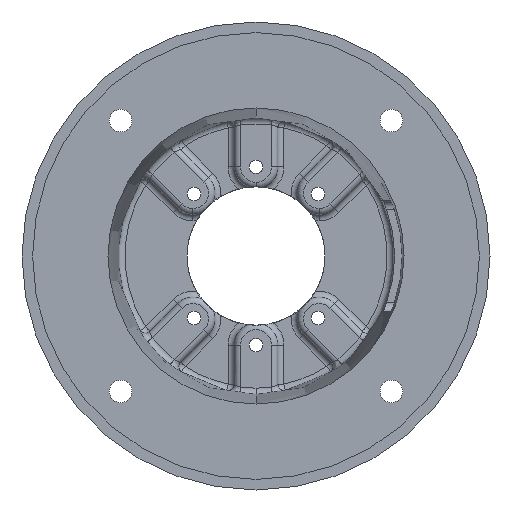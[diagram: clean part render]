
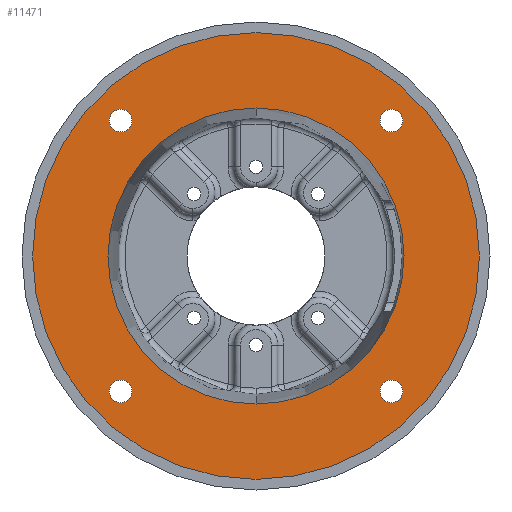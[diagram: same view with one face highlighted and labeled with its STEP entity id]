
A CAD part, front view. The second image highlights one B-rep face of the part: STEP entity #11471.
In plain terms, the highlighted planar face has unit normal (0, -1, 0).
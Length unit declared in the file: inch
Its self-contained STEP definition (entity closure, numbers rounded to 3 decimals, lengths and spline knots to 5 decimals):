
#420 = PLANE ( 'NONE',  #478 ) ;
#423 = DIRECTION ( 'NONE',  ( 0., 0., -1. ) ) ;
#424 = DIRECTION ( 'NONE',  ( 0., -1., 0. ) ) ;
#425 = CARTESIAN_POINT ( 'NONE',  ( -3.18198, 0.18, -3.18198 ) ) ;
#426 = AXIS2_PLACEMENT_3D ( 'NONE', #425, #424, #423 ) ;
#427 = CIRCLE ( 'NONE', #426, 0.26562 ) ;
#475 = DIRECTION ( 'NONE',  ( 0., 0., -1. ) ) ;
#476 = DIRECTION ( 'NONE',  ( 0., -1., 0. ) ) ;
#477 = CARTESIAN_POINT ( 'NONE',  ( 0., 0.18, 0. ) ) ;
#478 = AXIS2_PLACEMENT_3D ( 'NONE', #477, #476, #475 ) ;
#479 = FACE_BOUND ( 'NONE', #11516, .T. ) ;
#480 = FACE_OUTER_BOUND ( 'NONE', #11512, .T. ) ;
#481 = FACE_BOUND ( 'NONE', #11534, .T. ) ;
#482 = FACE_BOUND ( 'NONE', #11530, .T. ) ;
#483 = FACE_BOUND ( 'NONE', #11526, .T. ) ;
#484 = FACE_BOUND ( 'NONE', #11472, .T. ) ;
#489 = DIRECTION ( 'NONE',  ( 0., 0., -1. ) ) ;
#490 = DIRECTION ( 'NONE',  ( 0., -1., 0. ) ) ;
#491 = CARTESIAN_POINT ( 'NONE',  ( -3.18198, 0.18, 3.18198 ) ) ;
#492 = AXIS2_PLACEMENT_3D ( 'NONE', #491, #490, #489 ) ;
#497 = CIRCLE ( 'NONE', #492, 0.26562 ) ;
#500 = DIRECTION ( 'NONE',  ( 0., 0., -1. ) ) ;
#501 = DIRECTION ( 'NONE',  ( 0., -1., 0. ) ) ;
#502 = AXIS2_PLACEMENT_3D ( 'NONE', #507, #501, #500 ) ;
#503 = CIRCLE ( 'NONE', #502, 5.2505 ) ;
#507 = CARTESIAN_POINT ( 'NONE',  ( 0., 0.18, 0. ) ) ;
#541 = DIRECTION ( 'NONE',  ( 0., 0., -1. ) ) ;
#542 = DIRECTION ( 'NONE',  ( 0., -1., 0. ) ) ;
#543 = CARTESIAN_POINT ( 'NONE',  ( 3.18198, 0.18, -3.18198 ) ) ;
#544 = AXIS2_PLACEMENT_3D ( 'NONE', #543, #542, #541 ) ;
#545 = CIRCLE ( 'NONE', #544, 0.26562 ) ;
#546 = DIRECTION ( 'NONE',  ( 0., 0., -1. ) ) ;
#547 = DIRECTION ( 'NONE',  ( 0., -1., 0. ) ) ;
#548 = CARTESIAN_POINT ( 'NONE',  ( 3.18198, 0.18, 3.18198 ) ) ;
#549 = AXIS2_PLACEMENT_3D ( 'NONE', #548, #547, #546 ) ;
#550 = CIRCLE ( 'NONE', #549, 0.26562 ) ;
#1314 = VERTEX_POINT ( 'NONE', #12212 ) ;
#1508 = VERTEX_POINT ( 'NONE', #12679 ) ;
#1524 = EDGE_CURVE ( 'NONE', #1508, #1314, #12701, .T. ) ;
#1539 = VERTEX_POINT ( 'NONE', #12721 ) ;
#1543 = EDGE_CURVE ( 'NONE', #1551, #1539, #12771, .T. ) ;
#1551 = VERTEX_POINT ( 'NONE', #12764 ) ;
#4314 = CARTESIAN_POINT ( 'NONE',  ( -3.18198, 0.18, -2.91636 ) ) ;
#4328 = CARTESIAN_POINT ( 'NONE',  ( 0., 0.18, 5.2505 ) ) ;
#4334 = CARTESIAN_POINT ( 'NONE',  ( 0., 0.18, -5.2505 ) ) ;
#4400 = CARTESIAN_POINT ( 'NONE',  ( 0., 0.18, 0. ) ) ;
#4401 = AXIS2_PLACEMENT_3D ( 'NONE', #4400, #4461, #4460 ) ;
#4402 = CIRCLE ( 'NONE', #4401, 5.2505 ) ;
#4403 = CARTESIAN_POINT ( 'NONE',  ( -3.18198, 0.18, -3.18198 ) ) ;
#4442 = CARTESIAN_POINT ( 'NONE',  ( -3.18198, 0.18, -3.44761 ) ) ;
#4456 = DIRECTION ( 'NONE',  ( 0., 0., -1. ) ) ;
#4457 = DIRECTION ( 'NONE',  ( 0., -1., 0. ) ) ;
#4458 = AXIS2_PLACEMENT_3D ( 'NONE', #4403, #4457, #4456 ) ;
#4459 = CIRCLE ( 'NONE', #4458, 0.26562 ) ;
#4460 = DIRECTION ( 'NONE',  ( 0., 0., -1. ) ) ;
#4461 = DIRECTION ( 'NONE',  ( 0., -1., 0. ) ) ;
#5447 = CARTESIAN_POINT ( 'NONE',  ( -3.18198, 0.18, 3.44761 ) ) ;
#5454 = CARTESIAN_POINT ( 'NONE',  ( -3.18198, 0.18, 2.91636 ) ) ;
#5459 = DIRECTION ( 'NONE',  ( 0., 0., -1. ) ) ;
#5460 = DIRECTION ( 'NONE',  ( 0., -1., 0. ) ) ;
#5461 = CARTESIAN_POINT ( 'NONE',  ( -3.18198, 0.18, 3.18198 ) ) ;
#5462 = AXIS2_PLACEMENT_3D ( 'NONE', #5461, #5460, #5459 ) ;
#5463 = CIRCLE ( 'NONE', #5462, 0.26562 ) ;
#6952 = CARTESIAN_POINT ( 'NONE',  ( 0., 0.18, 3.47973 ) ) ;
#7252 = CARTESIAN_POINT ( 'NONE',  ( 0., 0.18, 0. ) ) ;
#7253 = AXIS2_PLACEMENT_3D ( 'NONE', #7252, #7277, #7276 ) ;
#7254 = CIRCLE ( 'NONE', #7253, 3.47973 ) ;
#7275 = CARTESIAN_POINT ( 'NONE',  ( 0., 0.18, -3.47973 ) ) ;
#7276 = DIRECTION ( 'NONE',  ( 0., 0., -1. ) ) ;
#7277 = DIRECTION ( 'NONE',  ( 0., 1., 0. ) ) ;
#7729 = DIRECTION ( 'NONE',  ( 0., 0., -1. ) ) ;
#7731 = DIRECTION ( 'NONE',  ( 0., 1., 0. ) ) ;
#7733 = CARTESIAN_POINT ( 'NONE',  ( 0., 0.18, 0. ) ) ;
#7734 = AXIS2_PLACEMENT_3D ( 'NONE', #7733, #7731, #7729 ) ;
#7736 = CIRCLE ( 'NONE', #7734, 3.47973 ) ;
#9797 = VERTEX_POINT ( 'NONE', #4334 ) ;
#9811 = VERTEX_POINT ( 'NONE', #4328 ) ;
#9820 = VERTEX_POINT ( 'NONE', #4314 ) ;
#9902 = EDGE_CURVE ( 'NONE', #9811, #9797, #4402, .T. ) ;
#9903 = EDGE_CURVE ( 'NONE', #9820, #9921, #4459, .T. ) ;
#9921 = VERTEX_POINT ( 'NONE', #4442 ) ;
#10259 = EDGE_CURVE ( 'NONE', #10264, #10262, #5463, .T. ) ;
#10262 = VERTEX_POINT ( 'NONE', #5454 ) ;
#10264 = VERTEX_POINT ( 'NONE', #5447 ) ;
#10775 = VERTEX_POINT ( 'NONE', #6952 ) ;
#10857 = EDGE_CURVE ( 'NONE', #10858, #10775, #7254, .T. ) ;
#10858 = VERTEX_POINT ( 'NONE', #7275 ) ;
#10944 = EDGE_CURVE ( 'NONE', #10775, #10858, #7736, .T. ) ;
#11459 = ORIENTED_EDGE ( 'NONE', *, *, #11460, .F. ) ;
#11460 = EDGE_CURVE ( 'NONE', #9921, #9820, #427, .T. ) ;
#11471 = ADVANCED_FACE ( 'NONE', ( #484, #483, #482, #481, #480, #479 ), #420, .T. ) ;
#11472 = EDGE_LOOP ( 'NONE', ( #11523, #11525 ) ) ;
#11511 = ORIENTED_EDGE ( 'NONE', *, *, #9903, .F. ) ;
#11512 = EDGE_LOOP ( 'NONE', ( #11513, #11515 ) ) ;
#11513 = ORIENTED_EDGE ( 'NONE', *, *, #11514, .T. ) ;
#11514 = EDGE_CURVE ( 'NONE', #9797, #9811, #503, .T. ) ;
#11515 = ORIENTED_EDGE ( 'NONE', *, *, #9902, .T. ) ;
#11516 = EDGE_LOOP ( 'NONE', ( #11517, #11518 ) ) ;
#11517 = ORIENTED_EDGE ( 'NONE', *, *, #10857, .T. ) ;
#11518 = ORIENTED_EDGE ( 'NONE', *, *, #10944, .T. ) ;
#11523 = ORIENTED_EDGE ( 'NONE', *, *, #11524, .F. ) ;
#11524 = EDGE_CURVE ( 'NONE', #10262, #10264, #497, .T. ) ;
#11525 = ORIENTED_EDGE ( 'NONE', *, *, #10259, .F. ) ;
#11526 = EDGE_LOOP ( 'NONE', ( #11527, #11529 ) ) ;
#11527 = ORIENTED_EDGE ( 'NONE', *, *, #11528, .F. ) ;
#11528 = EDGE_CURVE ( 'NONE', #1314, #1508, #550, .T. ) ;
#11529 = ORIENTED_EDGE ( 'NONE', *, *, #1524, .F. ) ;
#11530 = EDGE_LOOP ( 'NONE', ( #11531, #11533 ) ) ;
#11531 = ORIENTED_EDGE ( 'NONE', *, *, #11532, .F. ) ;
#11532 = EDGE_CURVE ( 'NONE', #1539, #1551, #545, .T. ) ;
#11533 = ORIENTED_EDGE ( 'NONE', *, *, #1543, .F. ) ;
#11534 = EDGE_LOOP ( 'NONE', ( #11459, #11511 ) ) ;
#12212 = CARTESIAN_POINT ( 'NONE',  ( 3.18198, 0.18, 2.91636 ) ) ;
#12679 = CARTESIAN_POINT ( 'NONE',  ( 3.18198, 0.18, 3.44761 ) ) ;
#12698 = DIRECTION ( 'NONE',  ( 0., 0., -1. ) ) ;
#12699 = DIRECTION ( 'NONE',  ( 0., -1., 0. ) ) ;
#12700 = AXIS2_PLACEMENT_3D ( 'NONE', #12705, #12699, #12698 ) ;
#12701 = CIRCLE ( 'NONE', #12700, 0.26562 ) ;
#12705 = CARTESIAN_POINT ( 'NONE',  ( 3.18198, 0.18, 3.18198 ) ) ;
#12721 = CARTESIAN_POINT ( 'NONE',  ( 3.18198, 0.18, -3.44761 ) ) ;
#12764 = CARTESIAN_POINT ( 'NONE',  ( 3.18198, 0.18, -2.91636 ) ) ;
#12767 = DIRECTION ( 'NONE',  ( 0., 0., -1. ) ) ;
#12768 = DIRECTION ( 'NONE',  ( 0., -1., 0. ) ) ;
#12769 = CARTESIAN_POINT ( 'NONE',  ( 3.18198, 0.18, -3.18198 ) ) ;
#12770 = AXIS2_PLACEMENT_3D ( 'NONE', #12769, #12768, #12767 ) ;
#12771 = CIRCLE ( 'NONE', #12770, 0.26562 ) ;
